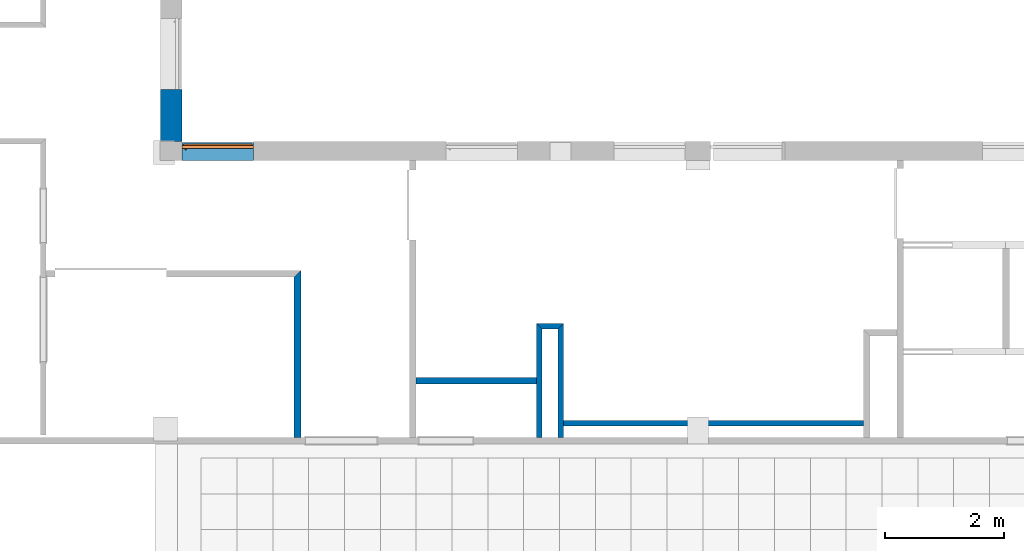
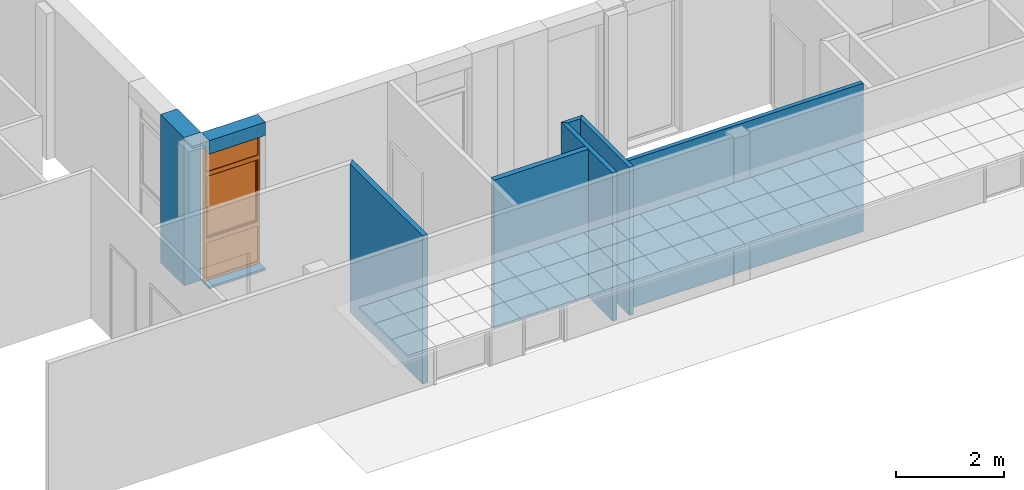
# One storey, part 24 of 60: 8 walls, 1 proxy, 1 opening.
"""IFC2X3 building model written with IfcOpenShell, lengths in millimetres."""

from ifc_helpers import new_model, entity, si_unit, converted_unit, derived_unit, money_unit, direction, frame, origin_with_axes, origin_2d_with_axis, place, context, subcontext, project, spatial, polyline, rectangle, outline, extrude, open_shell, faceted_brep, surface_model, source, transform, mapped, material, layer, layer_set, layer_usage, type_object, element, fill, save


model = new_model("IFC2X3")

# Units and contexts
model_context = context("Model", 3, precision=0.01, world=origin_with_axes(), true_north=direction((0.0, 1.0)))
body_context = subcontext(model_context, "Body", "Model", "MODEL_VIEW")
ifc_project = project(units=[si_unit("LENGTHUNIT", "METRE", prefix="MILLI"), si_unit("AREAUNIT", "SQUARE_METRE"), si_unit("VOLUMEUNIT", "CUBIC_METRE"), converted_unit("PLANEANGLEUNIT", "DEGREE", entity("IfcPlaneAngleMeasure", 0.0174532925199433), si_unit("PLANEANGLEUNIT", "RADIAN"), dimensions=[0, 0, 0, 0, 0, 0, 0]), money_unit("USD"), converted_unit("TIMEUNIT", "Year", entity("IfcTimeMeasure", 31557600.0), si_unit("TIMEUNIT", "SECOND"), dimensions=[0, 0, 1, 0, 0, 0, 0]), si_unit("MASSUNIT", "GRAM", prefix="KILO"), si_unit("THERMODYNAMICTEMPERATUREUNIT", "DEGREE_CELSIUS"), si_unit("LUMINOUSINTENSITYUNIT", "LUMEN"), si_unit("ENERGYUNIT", "JOULE", prefix="MEGA"), derived_unit("THERMALCONDUCTANCEUNIT", [(si_unit("POWERUNIT", "WATT"), 1), (si_unit("LENGTHUNIT", "METRE"), -1), (si_unit("THERMODYNAMICTEMPERATUREUNIT", "KELVIN"), -1)]), derived_unit("SPECIFICHEATCAPACITYUNIT", [(si_unit("ENERGYUNIT", "JOULE"), 1), (si_unit("MASSUNIT", "GRAM", prefix="KILO"), -1), (si_unit("THERMODYNAMICTEMPERATUREUNIT", "KELVIN"), -1)]), derived_unit("MASSDENSITYUNIT", [(si_unit("MASSUNIT", "GRAM", prefix="KILO"), 1), (si_unit("VOLUMEUNIT", "CUBIC_METRE"), -1)])], contexts=[model_context])

# Site, building, storey
site_placement = place(None, origin_with_axes())
site = spatial("IfcSite", under=ifc_project, at=site_placement, Name="Sitio", CompositionType="ELEMENT")
building_placement = place(site_placement, origin_with_axes())
building = spatial("IfcBuilding", under=site, at=building_placement, Name="Construcción", CompositionType="ELEMENT")
storey_placement = place(building_placement, frame((0.0, 0.0, 3650.0), z_axis=(0.0, 0.0, 1.0), x_axis=(1.0, 0.0, 0.0)))
storey = spatial("IfcBuildingStorey", under=building, at=storey_placement, Name="PLANTA 2ª", CompositionType="ELEMENT", Elevation=3650.0)

# Wall, opening, proxy
ifc_material_1 = material(Name="ARQ_AM246_Arrebossat_De_Guix")
ifc_layer_1 = layer(ifc_material_1, 20.0, ventilated="UNKNOWN")
ifc_material_2 = material(Name="ARQ_CE217_Gero")
ifc_layer_2 = layer(ifc_material_2, 110.0, ventilated="UNKNOWN")
ifc_material_3 = material(Name="ARQ_AI031_Aillament_Poliestireno expandido EPS")
ifc_layer_3 = layer(ifc_material_3, 100.0, ventilated="UNKNOWN")
ifc_material_4 = material(Name="ARQ_CE218_Ceramic")
ifc_layer_4 = layer(ifc_material_4, 50.0, ventilated="UNKNOWN")
ifc_layer_5 = layer(ifc_material_1, 20.0, ventilated="UNKNOWN")
ifc_layer_set_1 = layer_set([ifc_layer_1, ifc_layer_2, ifc_layer_3, ifc_layer_4, ifc_layer_5], Name="façana pati CR3 (ampit)")
ifc_layer_usage_1 = layer_usage(ifc_layer_set_1, "AXIS2", "POSITIVE", -300.0000000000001)
wall_type_1 = type_object("IfcWallType", Name="façana pati CR3 (ampit) 300", PredefinedType="NOTDEFINED")
wall_1_placement = place(storey_placement, frame((-26497.52587573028, -12338.97582371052, 0.0), z_axis=(0.0, 0.0, 1.0), x_axis=(-1.0, 0.0, 0.0)))
wall_1 = element("IfcWallStandardCase", 1, at=wall_1_placement, inside=storey, type_object=wall_type_1, material=ifc_layer_usage_1, Name="MS-201", context=body_context, shape_type="SweptSolid", body=[
    extrude(outline(polyline([(0.0, -300.0000000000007), (1194.999999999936, -300.0000000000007), (1194.999999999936, 0.0), (0.0, 0.0), (0.0, -300.0000000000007)])), origin_with_axes(), (0.0, 0.0, 1.0), 3350.0),
])
opening_placement = place(wall_1_placement, frame((594.9999999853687, 0.0, 49.99999999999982), z_axis=(0.0, 0.0, 1.0), x_axis=(1.0, 0.0, 0.0)))
opening = element("IfcOpeningElement", 2, at=opening_placement, cuts=wall_1, Name="V - 008", context=body_context, shape_type="SweptSolid", body=[
    extrude(rectangle(XDim=1200.000000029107, YDim=3000.0, at=origin_2d_with_axis()), frame((0.0, -250.0, 1500.0), z_axis=(0.0, -1.0, 0.0), x_axis=(-1.0, 0.0, 0.0)), (0.0, 0.0, -1.0), 550.0),
    extrude(rectangle(XDim=1200.000000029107, YDim=3000.0, at=origin_2d_with_axis()), frame((0.0, -250.0, 1500.0), z_axis=(0.0, 1.0, 0.0), x_axis=(-1.0, 0.0, 0.0)), (0.0, 0.0, -1.0), 350.0000000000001),
])
building_element_proxy_type = type_object("IfcBuildingElementProxyType", Name="Ventana Vertical Multi-Faja 27", PredefinedType="NOTDEFINED")
shared_shape = source(origin_with_axes(), body_context, "Body", "SurfaceModel", [
    faceted_brep([(-575.0000000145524, 0.0, 925.0), (-550.0000000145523, 0.0, 925.0), (-550.0000000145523, 0.0, 850.0), (-550.0000000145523, 0.0, 50.00000000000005), (-600.0000000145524, 0.0, 50.00000000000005), (-600.0000000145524, 0.0, 2950.0), (-550.0000000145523, 0.0, 2950.0), (-550.0000000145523, 0.0, 2450.0), (-550.0000000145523, 0.0, 2375.0), (-575.0000000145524, 0.0, 2375.0), (-575.0000000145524, -25.00000000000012, 925.0), (-550.0000000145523, -25.00000000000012, 925.0), (-550.0000000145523, -25.00000000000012, 950.0000000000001), (-550.0000000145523, -50.00000000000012, 950.0000000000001), (-550.0000000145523, -50.00000000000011, 850.0), (-550.0000000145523, -50.00000000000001, 50.00000000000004), (-600.0000000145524, -50.00000000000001, 50.00000000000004), (-600.0000000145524, -50.00000000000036, 2950.0), (-550.0000000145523, -50.00000000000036, 2950.0), (-550.0000000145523, -50.0000000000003, 2450.0), (-550.0000000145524, -25.00000000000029, 2375.0), (-550.0000000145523, -50.00000000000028, 2350.0), (-550.0000000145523, -25.00000000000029, 2350.0), (-575.0000000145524, -25.00000000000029, 2375.0)], [[[0, 1, 2, 3, 4, 5, 6, 7, 8, 9]], [[0, 10, 11, 1]], [[11, 12, 13, 14, 2, 1]], [[3, 2, 14, 15]], [[4, 3, 15, 16]], [[5, 4, 16, 17]], [[6, 5, 17, 18]], [[7, 6, 18, 19]], [[20, 8, 7, 19, 21, 22]], [[20, 23, 9, 8]], [[9, 23, 10, 0]], [[22, 12, 11, 10, 23, 20]], [[22, 21, 13, 12]], [[17, 16, 15, 14, 13, 21, 19, 18]]]),
    faceted_brep([(575.0000000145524, 0.0, 925.0), (575.0000000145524, 0.0, 2375.0), (550.0000000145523, 0.0, 2375.0), (550.0000000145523, 0.0, 2450.0), (550.0000000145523, 0.0, 2950.0), (600.0000000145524, 0.0, 2950.0), (600.0000000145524, 0.0, 50.00000000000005), (550.0000000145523, 0.0, 50.00000000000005), (550.0000000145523, 0.0, 850.0), (550.0000000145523, 0.0, 925.0), (575.0000000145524, -25.00000000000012, 925.0), (575.0000000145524, -25.00000000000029, 2375.0), (550.0000000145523, -25.00000000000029, 2375.0), (550.0000000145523, -25.00000000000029, 2350.0), (550.0000000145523, -50.00000000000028, 2350.0), (550.0000000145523, -50.0000000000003, 2450.0), (550.0000000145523, -50.00000000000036, 2950.0), (600.0000000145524, -50.00000000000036, 2950.0), (600.0000000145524, -50.00000000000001, 50.00000000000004), (550.0000000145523, -50.00000000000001, 50.00000000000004), (550.0000000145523, -50.00000000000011, 850.0), (550.0000000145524, -25.00000000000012, 925.0), (550.0000000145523, -50.00000000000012, 950.0000000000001), (550.0000000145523, -25.00000000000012, 950.0000000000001)], [[[0, 1, 2, 3, 4, 5, 6, 7, 8, 9]], [[0, 10, 11, 1]], [[1, 11, 12, 2]], [[12, 13, 14, 15, 3, 2]], [[4, 3, 15, 16]], [[5, 4, 16, 17]], [[6, 5, 17, 18]], [[7, 6, 18, 19]], [[8, 7, 19, 20]], [[21, 9, 8, 20, 22, 23]], [[9, 21, 10, 0]], [[12, 11, 10, 21, 23, 13]], [[23, 22, 14, 13]], [[14, 22, 20, 19, 18, 17, 16, 15]]]),
    faceted_brep([(-550.0000000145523, -25.00000000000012, 950.0000000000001), (-550.0000000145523, -50.00000000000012, 950.0000000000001), (550.0000000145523, -50.00000000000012, 950.0000000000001), (550.0000000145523, -25.00000000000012, 950.0000000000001), (-550.0000000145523, -25.00000000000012, 925.0), (-550.0000000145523, 0.0, 925.0), (-550.0000000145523, 0.0, 850.0), (-550.0000000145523, -50.00000000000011, 850.0), (550.0000000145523, -50.00000000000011, 850.0), (550.0000000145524, -25.00000000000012, 925.0), (550.0000000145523, 0.0, 850.0), (550.0000000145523, 0.0, 925.0)], [[[0, 1, 2, 3]], [[4, 5, 6, 7, 1, 0]], [[1, 7, 8, 2]], [[9, 3, 2, 8, 10, 11]], [[9, 4, 0, 3]], [[5, 4, 9, 11]], [[11, 10, 6, 5]], [[6, 10, 8, 7]]]),
    faceted_brep([(-550.0000000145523, 0.0, 2375.0), (-550.0000000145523, 0.0, 2450.0), (550.0000000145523, 0.0, 2450.0), (550.0000000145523, 0.0, 2375.0), (-550.0000000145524, -25.00000000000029, 2375.0), (-550.0000000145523, -25.00000000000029, 2350.0), (-550.0000000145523, -50.00000000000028, 2350.0), (-550.0000000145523, -50.0000000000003, 2450.0), (550.0000000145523, -50.0000000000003, 2450.0), (550.0000000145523, -25.00000000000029, 2375.0), (550.0000000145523, -50.00000000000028, 2350.0), (550.0000000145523, -25.00000000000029, 2350.0)], [[[0, 1, 2, 3]], [[4, 5, 6, 7, 1, 0]], [[2, 1, 7, 8]], [[9, 3, 2, 8, 10, 11]], [[9, 4, 0, 3]], [[11, 5, 4, 9]], [[11, 10, 6, 5]], [[7, 6, 10, 8]]]),
    faceted_brep([(550.0000000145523, -50.00000000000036, 2950.0), (550.0000000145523, 0.0, 2950.0), (600.0000000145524, 0.0, 2950.0), (600.0000000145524, -50.00000000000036, 2950.0), (-550.0000000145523, -50.00000000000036, 2950.0), (-550.0000000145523, 0.0, 2950.0), (-600.0000000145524, 0.0, 2950.0), (-600.0000000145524, 0.0, 3000.0), (600.0000000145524, 0.0, 3000.0), (600.0000000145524, -50.00000000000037, 3000.0), (-600.0000000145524, -50.00000000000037, 3000.0), (-600.0000000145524, -50.00000000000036, 2950.0)], [[[0, 1, 2, 3]], [[4, 5, 1, 0]], [[1, 5, 6, 7, 8, 2]], [[3, 2, 8, 9]], [[0, 3, 9, 10, 11, 4]], [[11, 6, 5, 4]], [[10, 7, 6, 11]], [[9, 8, 7, 10]]]),
    faceted_brep([(-550.0000000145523, -50.00000000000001, 50.0), (-550.0000000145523, 0.0, 50.00000000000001), (-600.0000000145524, 0.0, 50.00000000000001), (-600.0000000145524, -50.00000000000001, 50.0), (550.0000000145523, -50.00000000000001, 50.0), (550.0000000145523, 0.0, 50.00000000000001), (600.0000000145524, 0.0, 50.00000000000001), (600.0000000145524, 0.0, 0.0), (-600.0000000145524, 0.0, 0.0), (-600.0000000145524, -50.0, 0.0), (600.0000000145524, -50.0, 0.0), (600.0000000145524, -50.00000000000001, 50.0)], [[[0, 1, 2, 3]], [[4, 5, 1, 0]], [[1, 5, 6, 7, 8, 2]], [[3, 2, 8, 9]], [[0, 3, 9, 10, 11, 4]], [[11, 6, 5, 4]], [[10, 7, 6, 11]], [[9, 8, 7, 10]]]),
    surface_model("IfcShellBasedSurfaceModel", [(-550.0000000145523, -35.0, 49.99999999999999), (550.0000000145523, -35.0, 49.99999999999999), (550.0000000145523, -35.0000000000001, 850.0), (-550.0000000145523, -35.0000000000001, 850.0)], [open_shell([[[0, 1, 2, 3]]])]),
    surface_model("IfcShellBasedSurfaceModel", [(-550.0000000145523, -15.0, 49.99999999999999), (-550.0000000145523, -15.0000000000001, 850.0), (550.0000000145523, -15.0000000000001, 850.0), (550.0000000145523, -15.0, 49.99999999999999)], [open_shell([[[0, 1, 2, 3]]])]),
    faceted_brep([(-521.5000000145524, -25.00000000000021, 1677.0), (-522.839745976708, -25.00000000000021, 1682.0), (-522.839745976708, -37.00000000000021, 1682.0), (-521.5000000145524, -37.00000000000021, 1677.0), (-521.5000000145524, -25.0000000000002, 1623.0), (-522.839745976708, -25.0000000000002, 1618.0), (-526.5000000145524, -25.0000000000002, 1614.339745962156), (-531.5000000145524, -25.0000000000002, 1613.0), (-543.5000000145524, -25.0000000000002, 1613.0), (-548.5000000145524, -25.0000000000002, 1614.339745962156), (-552.1602540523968, -25.0000000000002, 1618.0), (-553.5000000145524, -25.0000000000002, 1623.0), (-553.5000000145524, -25.00000000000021, 1677.0), (-552.1602540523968, -25.00000000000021, 1682.0), (-548.5000000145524, -25.00000000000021, 1685.660254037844), (-543.5000000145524, -25.00000000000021, 1687.0), (-531.5000000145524, -25.00000000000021, 1687.0), (-526.5000000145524, -25.00000000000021, 1685.660254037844), (-526.5000000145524, -37.00000000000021, 1685.660254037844), (-531.5000000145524, -37.00000000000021, 1687.0), (-543.5000000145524, -37.00000000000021, 1687.0), (-548.5000000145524, -37.00000000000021, 1685.660254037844), (-552.1602540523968, -37.00000000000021, 1682.0), (-553.5000000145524, -37.00000000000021, 1677.0), (-553.5000000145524, -37.0000000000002, 1623.0), (-552.1602540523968, -37.0000000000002, 1618.0), (-548.5000000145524, -37.0000000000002, 1614.339745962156), (-543.5000000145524, -37.0000000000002, 1613.0), (-531.5000000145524, -37.0000000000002, 1613.0), (-526.5000000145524, -37.0000000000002, 1614.339745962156), (-522.839745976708, -37.0000000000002, 1618.0), (-521.5000000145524, -37.0000000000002, 1623.0)], [[[0, 1, 2, 3]], [[0, 4, 5, 6, 7, 8, 9, 10, 11, 12, 13, 14, 15, 16, 17, 1]], [[1, 17, 18, 2]], [[3, 2, 18, 19, 20, 21, 22, 23, 24, 25, 26, 27, 28, 29, 30, 31]], [[4, 0, 3, 31]], [[5, 4, 31, 30]], [[6, 5, 30, 29]], [[7, 6, 29, 28]], [[8, 7, 28, 27]], [[9, 8, 27, 26]], [[10, 9, 26, 25]], [[11, 10, 25, 24]], [[12, 11, 24, 23]], [[13, 12, 23, 22]], [[14, 13, 22, 21]], [[15, 14, 21, 20]], [[16, 15, 20, 19]], [[17, 16, 19, 18]]]),
    faceted_brep([(-537.5000000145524, -37.0000000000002, 1663.5), (-544.2500000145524, -37.0000000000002, 1661.69134295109), (-544.2500000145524, -61.00000000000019, 1661.69134295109), (-537.5000000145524, -61.00000000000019, 1663.5), (-530.7500000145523, -37.0000000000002, 1661.69134295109), (-525.8086570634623, -37.0000000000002, 1656.75), (-524.0000000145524, -37.0000000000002, 1650.0), (-525.8086570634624, -37.0000000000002, 1643.25), (-530.7500000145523, -37.0000000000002, 1638.30865704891), (-537.5000000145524, -37.0000000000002, 1636.5), (-544.2500000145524, -37.0000000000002, 1638.30865704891), (-549.1913429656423, -37.0000000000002, 1643.25), (-551.0000000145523, -37.0000000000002, 1650.0), (-549.1913429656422, -37.0000000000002, 1656.75), (-549.1913429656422, -61.00000000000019, 1656.75), (-551.0000000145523, -61.00000000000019, 1650.0), (-549.1913429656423, -61.00000000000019, 1643.25), (-544.2500000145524, -61.00000000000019, 1638.30865704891), (-537.5000000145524, -61.00000000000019, 1636.5), (-530.7500000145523, -61.00000000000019, 1638.30865704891), (-525.8086570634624, -61.00000000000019, 1643.25), (-524.0000000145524, -61.00000000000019, 1650.0), (-525.8086570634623, -61.00000000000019, 1656.75), (-530.7500000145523, -61.00000000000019, 1661.69134295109)], [[[0, 1, 2, 3]], [[0, 4, 5, 6, 7, 8, 9, 10, 11, 12, 13, 1]], [[1, 13, 14, 2]], [[3, 2, 14, 15, 16, 17, 18, 19, 20, 21, 22, 23]], [[4, 0, 3, 23]], [[5, 4, 23, 22]], [[6, 5, 22, 21]], [[7, 6, 21, 20]], [[8, 7, 20, 19]], [[9, 8, 19, 18]], [[10, 9, 18, 17]], [[11, 10, 17, 16]], [[12, 11, 16, 15]], [[13, 12, 15, 14]]]),
    faceted_brep([(-526.0000000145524, -61.00000000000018, 1543.0), (-537.5000000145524, -61.00000000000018, 1540.0), (-549.0000000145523, -61.00000000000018, 1543.0), (-551.0000000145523, -61.00000000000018, 1546.0), (-551.0000000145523, -61.00000000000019, 1650.0), (-549.1913429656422, -61.00000000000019, 1656.75), (-544.2500000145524, -61.00000000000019, 1661.69134295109), (-537.5000000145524, -61.00000000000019, 1663.5), (-530.7500000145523, -61.00000000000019, 1661.69134295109), (-525.8086570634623, -61.00000000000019, 1656.75), (-524.0000000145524, -61.00000000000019, 1650.0), (-524.0000000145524, -61.00000000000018, 1546.0), (-525.9999999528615, -69.00000000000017, 1543.000000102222), (-537.4999999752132, -69.00000000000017, 1539.999999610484), (-548.9999999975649, -69.00000000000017, 1543.000000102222), (-551.0000003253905, -69.00000000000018, 1545.999999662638), (-551.0000003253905, -69.0000000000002, 1649.99999994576), (-549.1913430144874, -69.0000000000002, 1656.749999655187), (-544.2499996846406, -69.0000000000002, 1661.691342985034), (-537.4999999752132, -69.0000000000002, 1663.500000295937), (-530.7500002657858, -69.0000000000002, 1661.691342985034), (-525.808656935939, -69.0000000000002, 1656.749999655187), (-523.9999996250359, -69.0000000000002, 1649.99999994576), (-523.9999996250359, -69.00000000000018, 1545.999999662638), (-527.8625374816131, -71.99999956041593, 1545.61451963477), (-537.4999999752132, -71.99999956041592, 1543.100398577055), (-547.1374624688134, -71.99999956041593, 1545.61451963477), (-548.0000007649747, -71.99999956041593, 1546.908326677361), (-548.0000007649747, -71.99999956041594, 1649.605042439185), (-546.5016170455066, -71.99999956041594, 1655.197085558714), (-542.6970855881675, -71.99999956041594, 1659.001617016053), (-537.4999999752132, -71.99999956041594, 1660.394172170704), (-532.302914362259, -71.99999956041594, 1659.001617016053), (-528.4983829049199, -71.99999956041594, 1655.197085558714), (-526.9999991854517, -71.99999956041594, 1649.605042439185), (-526.9999991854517, -71.99999956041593, 1546.908326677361)], [[[0, 1, 2, 3, 4, 5, 6, 7, 8, 9, 10, 11]], [[1, 0, 12, 13]], [[2, 1, 13, 14]], [[3, 2, 14, 15]], [[4, 3, 15, 16]], [[5, 4, 16, 17]], [[6, 5, 17, 18]], [[7, 6, 18, 19]], [[8, 7, 19, 20]], [[9, 8, 20, 21]], [[10, 9, 21, 22]], [[11, 10, 22, 23]], [[0, 11, 23, 12]], [[13, 12, 24, 25]], [[14, 13, 25, 26]], [[15, 14, 26, 27]], [[16, 15, 27, 28]], [[17, 16, 28, 29]], [[18, 17, 29, 30]], [[19, 18, 30, 31]], [[20, 19, 31, 32]], [[21, 20, 32, 33]], [[22, 21, 33, 34]], [[23, 22, 34, 35]], [[12, 23, 35, 24]], [[26, 25, 24, 35, 34, 33, 32, 31, 30, 29, 28, 27]]]),
    faceted_brep([(-525.0000000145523, -25.00000000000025, 2325.0), (-525.0000000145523, 24.99999999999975, 2325.0), (-575.0000000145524, 24.99999999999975, 2325.0), (-575.0000000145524, -25.00000000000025, 2325.0), (-525.0000000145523, -25.00000000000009, 975.0000000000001), (-525.0000000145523, 24.99999999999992, 975.0000000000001), (-575.0000000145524, 24.99999999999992, 975.0000000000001), (-575.0000000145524, -25.00000000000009, 975.0000000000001)], [[[0, 1, 2, 3]], [[4, 5, 1, 0]], [[1, 5, 6, 2]], [[3, 2, 6, 7]], [[0, 3, 7, 4]], [[7, 6, 5, 4]]]),
    faceted_brep([(525.0000000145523, -25.00000000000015, 975.0000000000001), (525.0000000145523, 24.99999999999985, 975.0000000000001), (575.0000000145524, 24.99999999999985, 975.0000000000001), (575.0000000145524, -25.00000000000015, 975.0000000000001), (525.0000000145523, -25.00000000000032, 2325.0), (525.0000000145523, 24.99999999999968, 2325.0), (575.0000000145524, 24.99999999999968, 2325.0), (575.0000000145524, -25.00000000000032, 2325.0)], [[[0, 1, 2, 3]], [[4, 5, 1, 0]], [[1, 5, 6, 2]], [[3, 2, 6, 7]], [[0, 3, 7, 4]], [[7, 6, 5, 4]]]),
    faceted_brep([(575.0000000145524, -25.00000000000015, 925.0), (575.0000000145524, 24.99999999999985, 925.0), (575.0000000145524, 24.99999999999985, 975.0000000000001), (575.0000000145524, -25.00000000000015, 975.0000000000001), (-575.0000000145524, -25.00000000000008, 925.0), (-575.0000000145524, 24.99999999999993, 925.0), (-575.0000000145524, 24.99999999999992, 975.0000000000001), (-525.0000000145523, 24.99999999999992, 975.0000000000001), (525.0000000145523, 24.99999999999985, 975.0000000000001), (525.0000000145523, -25.00000000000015, 975.0000000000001), (-525.0000000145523, -25.00000000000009, 975.0000000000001), (-575.0000000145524, -25.00000000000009, 975.0000000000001)], [[[0, 1, 2, 3]], [[4, 5, 1, 0]], [[1, 5, 6, 7, 8, 2]], [[3, 2, 8, 9]], [[0, 3, 9, 10, 11, 4]], [[11, 6, 5, 4]], [[10, 7, 6, 11]], [[9, 8, 7, 10]]]),
    faceted_brep([(-575.0000000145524, -25.00000000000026, 2375.0), (-575.0000000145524, 24.99999999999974, 2375.0), (-575.0000000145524, 24.99999999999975, 2325.0), (-575.0000000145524, -25.00000000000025, 2325.0), (575.0000000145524, -25.00000000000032, 2375.0), (575.0000000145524, 24.99999999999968, 2375.0), (575.0000000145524, 24.99999999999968, 2325.0), (525.0000000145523, 24.99999999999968, 2325.0), (-525.0000000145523, 24.99999999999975, 2325.0), (-525.0000000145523, -25.00000000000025, 2325.0), (525.0000000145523, -25.00000000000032, 2325.0), (575.0000000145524, -25.00000000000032, 2325.0)], [[[0, 1, 2, 3]], [[4, 5, 1, 0]], [[1, 5, 6, 7, 8, 2]], [[3, 2, 8, 9]], [[0, 3, 9, 10, 11, 4]], [[11, 6, 5, 4]], [[10, 7, 6, 11]], [[9, 8, 7, 10]]]),
    surface_model("IfcShellBasedSurfaceModel", [(-525.0000000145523, -10.00000000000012, 975.0000000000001), (525.0000000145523, -10.00000000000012, 975.0000000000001), (525.0000000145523, -10.00000000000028, 2325.0), (-525.0000000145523, -10.00000000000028, 2325.0)], [open_shell([[[0, 1, 2, 3]]])]),
    surface_model("IfcShellBasedSurfaceModel", [(-525.0000000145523, 9.999999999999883, 975.0000000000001), (-525.0000000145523, 9.99999999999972, 2325.0), (525.0000000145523, 9.99999999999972, 2325.0), (525.0000000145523, 9.999999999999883, 975.0000000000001)], [open_shell([[[0, 1, 2, 3]]])]),
    surface_model("IfcShellBasedSurfaceModel", [(-550.0000000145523, -35.0000000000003, 2450.0), (550.0000000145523, -35.0000000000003, 2450.0), (550.0000000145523, -35.00000000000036, 2950.0), (-550.0000000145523, -35.00000000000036, 2950.0)], [open_shell([[[0, 1, 2, 3]]])]),
    surface_model("IfcShellBasedSurfaceModel", [(-550.0000000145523, -15.0000000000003, 2450.0), (-550.0000000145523, -15.00000000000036, 2950.0), (550.0000000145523, -15.00000000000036, 2950.0), (550.0000000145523, -15.0000000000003, 2450.0)], [open_shell([[[0, 1, 2, 3]]])]),
])
proxy_placement = place(opening_placement, frame((600.0000000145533, 0.0, 0.0), z_axis=(0.0, 0.0, 1.0), x_axis=(-1.0, 0.0, 0.0)))
proxy = element("IfcBuildingElementProxy", 3, at=proxy_placement, inside=storey, type_object=building_element_proxy_type, Name="V - 008", context=body_context, shape_type="MappedRepresentation", body=[
    mapped(shared_shape, transform((600.0000000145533, 250.0, 0.0))),
])
fill(opening, proxy)

# Walls
ifc_layer_6 = layer(ifc_material_2, 150.0, ventilated="UNKNOWN")
ifc_layer_7 = layer(ifc_material_3, 140.0, ventilated="UNKNOWN")
ifc_layer_8 = layer(ifc_material_4, 50.0, ventilated="UNKNOWN")
ifc_layer_9 = layer(ifc_material_1, 20.0, ventilated="UNKNOWN")
ifc_layer_set_2 = layer_set([ifc_layer_6, ifc_layer_7, ifc_layer_8, ifc_layer_9], Name="façana pati CR4")
ifc_layer_usage_2 = layer_usage(ifc_layer_set_2, "AXIS2", "POSITIVE", -360.0000000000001)
wall_type_2 = type_object("IfcWallType", Name="façana pati CR4 360", PredefinedType="NOTDEFINED")
wall_2_placement = place(storey_placement, frame((-28050.84818028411, -12338.97582371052, 0.0), z_axis=(0.0, 0.0, 1.0), x_axis=(0.0, 1.0, 0.0)))
element("IfcWallStandardCase", 4, at=wall_2_placement, inside=storey, type_object=wall_type_2, material=ifc_layer_usage_2, Name="MS-200", context=body_context, shape_type="SweptSolid", body=[
    extrude(outline(polyline([(320.0000000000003, -359.9999999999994), (1188.000000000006, -359.9999999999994), (1188.000000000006, 0.0), (320.0000000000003, 0.0), (320.0000000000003, -359.9999999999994)])), origin_with_axes(), (0.0, 0.0, 1.0), 3350.0),
])
ifc_layer_10 = layer(ifc_material_1, 10.0, ventilated="UNKNOWN")
ifc_layer_11 = layer(ifc_material_2, 90.0, ventilated="UNKNOWN")
ifc_layer_12 = layer(ifc_material_1, 10.0, ventilated="UNKNOWN")
ifc_layer_set_3 = layer_set([ifc_layer_10, ifc_layer_11, ifc_layer_12], Name="CR Enva Totxana")
ifc_layer_usage_3 = layer_usage(ifc_layer_set_3, "AXIS2", "POSITIVE", 0.0)
wall_type_3 = type_object("IfcWallType", Name="CR Enva Totxana 110", PredefinedType="NOTDEFINED")
wall_3_placement = place(storey_placement, frame((-25702.67583112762, -17083.97582371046, 0.0), z_axis=(0.0, 0.0, 1.0), x_axis=(0.0, 1.0, 0.0)))
element("IfcWallStandardCase", 5, at=wall_3_placement, inside=storey, type_object=wall_type_3, material=ifc_layer_usage_3, Name="MS-201", context=body_context, shape_type="SweptSolid", body=[
    extrude(outline(polyline([(110.000000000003, 0.0), (2903.032070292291, 0.0), (2793.032070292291, 109.9999999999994), (110.000000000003, 109.9999999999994), (110.000000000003, 0.0)])), origin_with_axes(), (0.0, 0.0, 1.0), 3350.0),
])
ifc_layer_usage_4 = layer_usage(ifc_layer_set_3, "AXIS2", "POSITIVE", 0.0)
wall_4_placement = place(storey_placement, frame((-21752.89414544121, -15968.97598839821, 0.0), z_axis=(0.0, 0.0, 1.0), x_axis=(-1.0, 0.0, 0.0)))
element("IfcWallStandardCase", 6, at=wall_4_placement, inside=storey, type_object=wall_type_3, material=ifc_layer_usage_4, Name="MS-201", context=body_context, shape_type="SweptSolid", body=[
    extrude(outline(polyline([(0.0, 0.0), (2019.781685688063, 0.0), (2019.781685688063, 109.9999999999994), (0.0, 109.9999999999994), (0.0, 0.0)])), origin_with_axes(), (0.0, 0.0, 1.0), 3350.0),
])
ifc_layer_13 = layer(ifc_material_1, 10.0, ventilated="UNKNOWN")
ifc_layer_14 = layer(ifc_material_2, 70.0, ventilated="UNKNOWN")
ifc_layer_15 = layer(ifc_material_1, 10.0, ventilated="UNKNOWN")
ifc_layer_set_4 = layer_set([ifc_layer_13, ifc_layer_14, ifc_layer_15], Name="CR Enva Totxaneta")
ifc_layer_usage_5 = layer_usage(ifc_layer_set_4, "AXIS2", "POSITIVE", 0.0)
wall_type_4 = type_object("IfcWallType", Name="CR Enva Totxaneta 90", PredefinedType="NOTDEFINED")
wall_5_placement = place(storey_placement, frame((-21302.89414544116, -15068.97598839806, 0.0), z_axis=(0.0, 0.0, 1.0), x_axis=(-1.0, 0.0, 0.0)))
element("IfcWallStandardCase", 7, at=wall_5_placement, inside=storey, type_object=wall_type_4, material=ifc_layer_usage_5, Name="MS-201", context=body_context, shape_type="SweptSolid", body=[
    extrude(outline(polyline([(0.0, 0.0), (450.0000000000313, 0.0), (360.0000000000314, 89.99999999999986), (89.99999999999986, 89.99999999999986), (0.0, 0.0)])), origin_with_axes(), (0.0, 0.0, 1.0), 3350.0),
])
ifc_layer_usage_6 = layer_usage(ifc_layer_set_4, "AXIS2", "POSITIVE", 0.0)
wall_6_placement = place(storey_placement, frame((-21302.89414544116, -17083.97582371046, 0.0), z_axis=(0.0, 0.0, 1.0), x_axis=(0.0, 1.0, 0.0)))
element("IfcWallStandardCase", 8, at=wall_6_placement, inside=storey, type_object=wall_type_4, material=ifc_layer_usage_6, Name="MS-201", context=body_context, shape_type="SweptSolid", body=[
    extrude(outline(polyline([(109.9999999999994, 0.0), (2014.999835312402, 0.0), (1924.999835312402, 89.99999999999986), (109.9999999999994, 89.99999999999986), (109.9999999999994, 0.0)])), origin_with_axes(), (0.0, 0.0, 1.0), 3350.0),
])
ifc_layer_usage_7 = layer_usage(ifc_layer_set_4, "AXIS2", "POSITIVE", 0.0)
wall_7_placement = place(storey_placement, frame((-21662.89414544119, -17083.97582371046, 0.0), z_axis=(0.0, 0.0, 1.0), x_axis=(0.0, 1.0, 0.0)))
element("IfcWallStandardCase", 9, at=wall_7_placement, inside=storey, type_object=wall_type_4, material=ifc_layer_usage_7, Name="MS-201", context=body_context, shape_type="SweptSolid", body=[
    extrude(outline(polyline([(109.9999999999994, 0.0), (1924.999835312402, 0.0), (2014.999835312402, 89.99999999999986), (109.9999999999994, 89.99999999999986), (109.9999999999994, 0.0)])), origin_with_axes(), (0.0, 0.0, 1.0), 3350.0),
])
ifc_layer_usage_8 = layer_usage(ifc_layer_set_4, "AXIS2", "POSITIVE", 0.0)
wall_8_placement = place(storey_placement, frame((-16281.10900490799, -16690.97598839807, 0.0), z_axis=(0.0, 0.0, 1.0), x_axis=(-1.0, 0.0, 0.0)))
element("IfcWallStandardCase", 10, at=wall_8_placement, inside=storey, type_object=wall_type_4, material=ifc_layer_usage_8, Name="MS-201", context=body_context, shape_type="SweptSolid", body=[
    extrude(outline(polyline([(0.0, 0.0), (5021.785140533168, 0.0), (5021.785140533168, 89.99999999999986), (0.0, 89.99999999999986), (0.0, 0.0)])), origin_with_axes(), (0.0, 0.0, 1.0), 3350.0),
])

save(model, "model.ifc")
